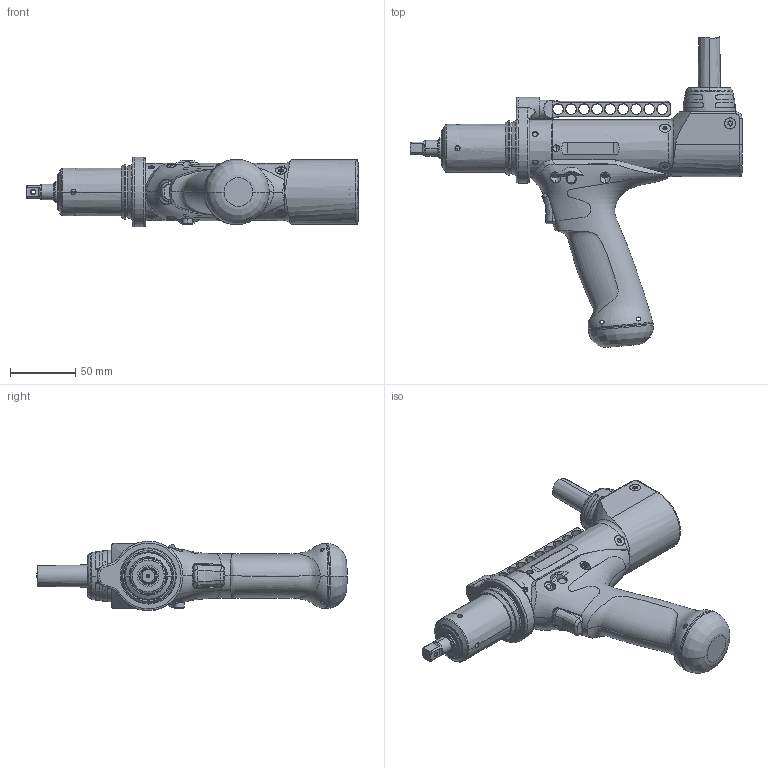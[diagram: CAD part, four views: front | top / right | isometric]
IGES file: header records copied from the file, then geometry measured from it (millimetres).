
Start section:  PTC IGES file: 6151660400.igs
Global section: file name: 6151660400.igs; native system: Creo Parametric by PTC Inc.; preprocessor: 2016050; author: greextsd; organization: Unknown; date: 20160610.161417; units: millimetre
Bounding box: 254.8 x 238.22 x 53.36 mm (x, y, z)
Volume: 271790 mm3; surface area: 158162 mm2
Topology: 5 solids, 5 shells, 3955 faces, 10739 edges, 6919 vertices
Faces by surface type: bspline 2663, revolution 1217, extrusion 75
